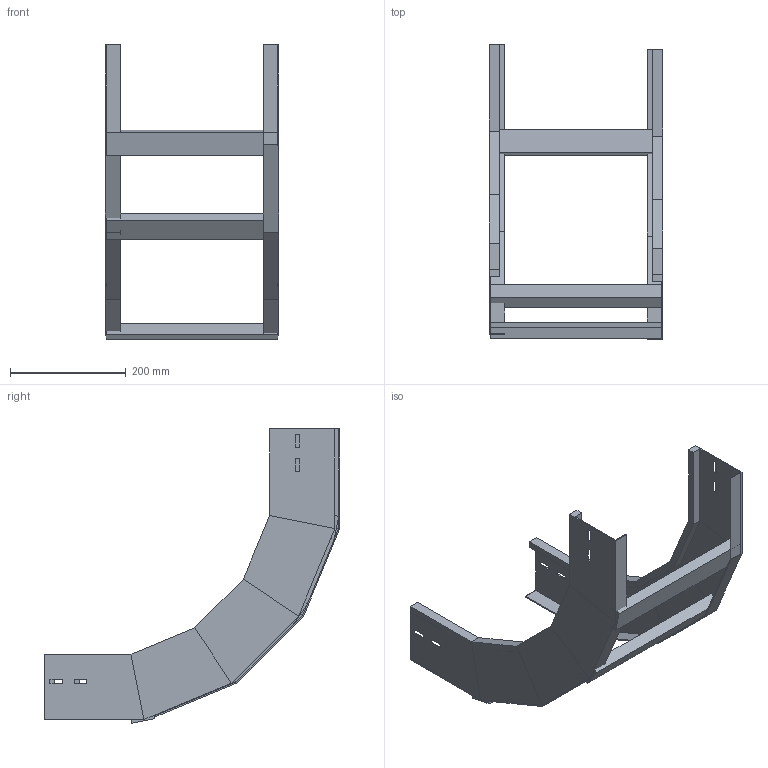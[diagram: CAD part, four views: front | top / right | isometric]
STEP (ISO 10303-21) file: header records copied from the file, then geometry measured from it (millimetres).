
FILE_DESCRIPTION (( 'STEP AP214' ), '1' );
FILE_NAME ('A2X30B3J300XX.step', '2025-04-02T09:11:37', ( '' ), ( '' ), 'SwSTEP 2.0', 'SolidWorks 2023', '' );
FILE_SCHEMA (( 'AUTOMOTIVE_DESIGN' ));
Length unit declared in the file: millimetre
Products named in the file (3): LONGH.SALITA_90°_H112.5_R300; TRAVERSINO_300; A2X30B3J300XX
Assembly tree (5 placements, depth 2):
  A2X30B3J300XX
    LONGH.SALITA_90°_H112.5_R300  x2
    TRAVERSINO_300  x3
Bounding box: 300 x 509.89 x 507.89 mm (x, y, z)
Volume: 1390909.2 mm3; surface area: 579822.1 mm2
Topology: 5 solids, 5 shells, 134 faces, 308 edges, 184 vertices
Faces by surface type: plane 134
Entity records: 1864 total; most frequent: CARTESIAN_POINT 308, ORIENTED_EDGE 296, DIRECTION 292, VECTOR 148, EDGE_CURVE 148, LINE 148, VERTEX_POINT 88, EDGE_LOOP 72
